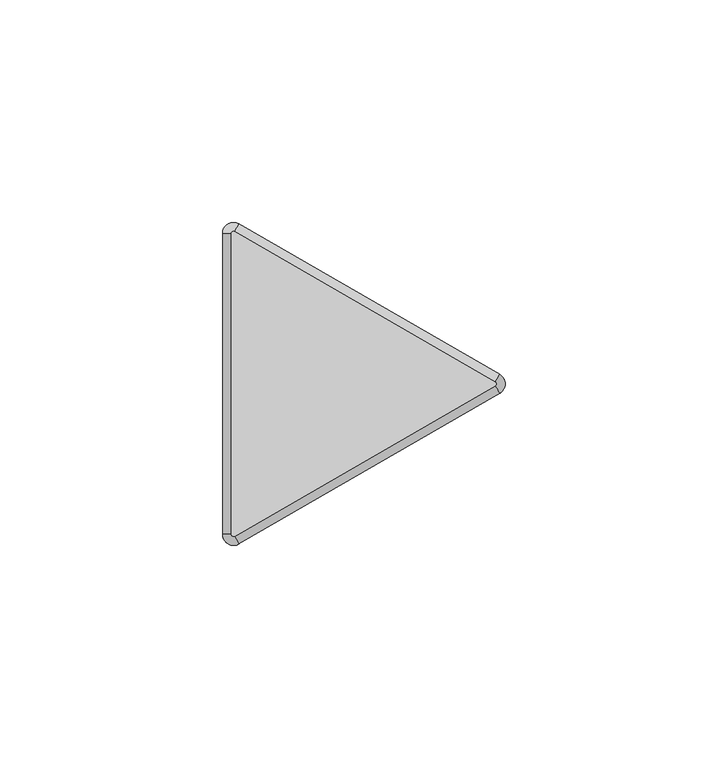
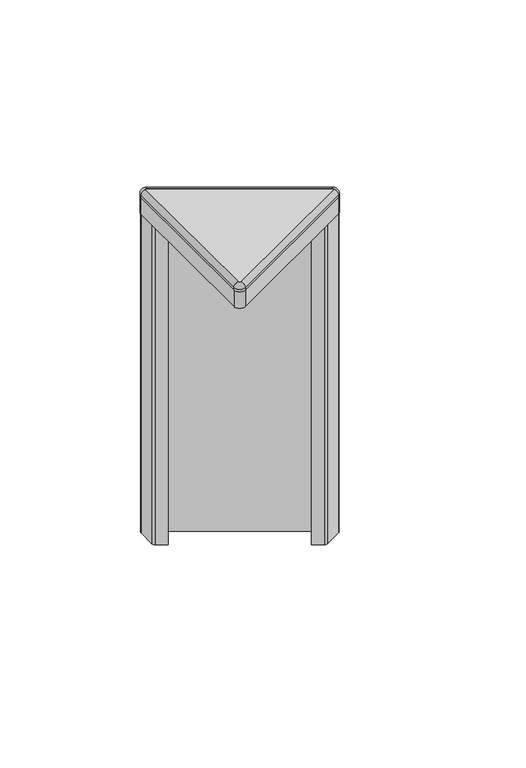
"""IFC4 building model written with IfcOpenShell, lengths in millimetres: furniture geometry, Steelcase - Answer Solution - Panel - 120deg Change-of-Height Trim - Thin : V Corner - 6H for 36H App."""

import ifcopenshell
import ifcopenshell.guid

model = None  # the IFC model being written
_history = None  # IfcOwnerHistory: only IFC2X3 demands one
_inside = {}  # id of a spatial element -> (the spatial element, [elements in it])
_under = {}  # id of a project, library or spatial element -> (it, [spatial elements below it])
_declared = {}  # id of a project -> (the project, [libraries it declares])
_typed = {}  # id of a type object -> (the type object, [elements of that type])
_made_of = {}  # id of a material, layer set ... -> (it, [elements and type objects made of it])


def new_model(schema):
    """Start an empty IFC model of exactly this schema.

    Asked for "IFC4X3", IfcOpenShell would pick the latest addendum, in which some entities
    have other attributes; the version numbers below select the first issue.
    IFC2X3 requires an IfcOwnerHistory on every rooted entity: one is made here for all.
    """
    global model, _history
    if schema == "IFC4X3":
        model = ifcopenshell.file(schema_version=(4, 3, 0, 0))
    else:
        model = ifcopenshell.file(schema=schema)
    _inside.clear()
    _under.clear()
    _declared.clear()
    _typed.clear()
    _made_of.clear()
    _history = None
    if model.schema == "IFC2X3":
        org = make("IfcOrganization", Name="unknown")
        user = make(
            "IfcPersonAndOrganization",
            ThePerson=make("IfcPerson", FamilyName="unknown"),
            TheOrganization=org,
        )
        app = make(
            "IfcApplication",
            ApplicationDeveloper=org,
            Version="unknown",
            ApplicationFullName="unknown",
            ApplicationIdentifier="unknown",
        )
        _history = make(
            "IfcOwnerHistory",
            OwningUser=user,
            OwningApplication=app,
            ChangeAction="ADDED",
            CreationDate=0,
        )
    return model


def make(cls, **values):
    """One entity of the class cls with the attributes given. An attribute that is None is left unset."""
    return model.create_entity(
        cls, **{name: value for name, value in values.items() if value is not None}
    )


def rooted(cls, **values):
    """An entity with a GlobalId (a new one), such as an element, a storey or a relation."""
    return make(cls, GlobalId=ifcopenshell.guid.new(), OwnerHistory=_history, **values)


def si_unit(unit_type, name, prefix=None):
    """IfcSIUnit, for example si_unit("LENGTHUNIT", "METRE", prefix="MILLI")."""
    return make("IfcSIUnit", UnitType=unit_type, Prefix=prefix, Name=name)


def assignment(units):
    """IfcUnitAssignment: the units of a project."""
    return None if units is None else make("IfcUnitAssignment", Units=units)


def point(xyz):
    """IfcCartesianPoint."""
    return None if xyz is None else make("IfcCartesianPoint", Coordinates=xyz)


def direction(xyz):
    """IfcDirection."""
    return None if xyz is None else make("IfcDirection", DirectionRatios=xyz)


def frame(location, z_axis=None, x_axis=None):
    """IfcAxis2Placement3D, a coordinate frame: its origin and axes. An axis left out is left unset."""
    return make(
        "IfcAxis2Placement3D",
        Location=point(location),
        Axis=direction(z_axis),
        RefDirection=direction(x_axis),
    )


def frame_2d(location, x_axis=None):
    """IfcAxis2Placement2D, a coordinate frame in the plane: its origin and x axis."""
    return make(
        "IfcAxis2Placement2D", Location=point(location), RefDirection=direction(x_axis)
    )


def origin():
    """The frame at (0, 0, 0) with its axes left unset."""
    return frame((0.0, 0.0, 0.0))


def place(relative_to, where):
    """IfcLocalPlacement: puts the frame where relative to a parent placement (None: the world)."""
    return make(
        "IfcLocalPlacement", PlacementRelTo=relative_to, RelativePlacement=where
    )


def context(
    kind, dimensions, precision=None, world=None, true_north=None, identifier=None
):
    """IfcGeometricRepresentationContext, for example the 3D "Model" context."""
    return make(
        "IfcGeometricRepresentationContext",
        ContextIdentifier=identifier,
        ContextType=kind,
        CoordinateSpaceDimension=dimensions,
        Precision=precision,
        WorldCoordinateSystem=world,
        TrueNorth=true_north,
    )


def project(units=None, contexts=None):
    """IfcProject with its units and contexts."""
    return rooted(
        "IfcProject",
        Name="project",
        RepresentationContexts=contexts,
        UnitsInContext=assignment(units),
    )


def spatial(cls, under=None, at=None, **own):
    """A site, building, storey or space (cls), placed at a placement, below another one or the project."""
    s = rooted(cls, ObjectPlacement=at, **own)
    if under is not None:
        _under.setdefault(under.id(), (under, []))[1].append(s)
    return s


def polyline(points):
    """IfcPolyline through the points."""
    return make("IfcPolyline", Points=[point(p) for p in points])


def circle_curve(where, radius):
    """IfcCircle in the frame where."""
    return make("IfcCircle", Position=where, Radius=radius)


def ellipse_curve(where, semi_axis1, semi_axis2):
    """IfcEllipse in the frame where."""
    return make(
        "IfcEllipse", Position=where, SemiAxis1=semi_axis1, SemiAxis2=semi_axis2
    )


def trimmed(basis, trim1, trim2, sense, master):
    """IfcTrimmedCurve: the piece of a basis curve between two trims."""
    return make(
        "IfcTrimmedCurve",
        BasisCurve=basis,
        Trim1=trim1,
        Trim2=trim2,
        SenseAgreement=sense,
        MasterRepresentation=master,
    )


def segment(curve, same_sense, transition):
    """IfcCompositeCurveSegment."""
    return make(
        "IfcCompositeCurveSegment",
        Transition=transition,
        SameSense=same_sense,
        ParentCurve=curve,
    )


def composite_curve(segments, self_intersect=None):
    """IfcCompositeCurve: segments joined end to end."""
    return make("IfcCompositeCurve", Segments=segments, SelfIntersect=self_intersect)


def outline(outer, holes=None, kind="AREA"):
    """IfcArbitraryClosedProfileDef: a profile drawn as a closed curve; with holes, ...WithVoids."""
    if holes is None:
        return make("IfcArbitraryClosedProfileDef", ProfileType=kind, OuterCurve=outer)
    return make(
        "IfcArbitraryProfileDefWithVoids",
        ProfileType=kind,
        OuterCurve=outer,
        InnerCurves=holes,
    )


def extrude(swept, where, along, depth):
    """IfcExtrudedAreaSolid: the profile swept, set in the frame where, extruded along a direction by depth."""
    return make(
        "IfcExtrudedAreaSolid",
        SweptArea=swept,
        Position=where,
        ExtrudedDirection=direction(along),
        Depth=depth,
    )


def shape(context_of_items, identifier, shape_type, items):
    """IfcShapeRepresentation: the items that make up one representation, for example the "Body"."""
    return make(
        "IfcShapeRepresentation",
        ContextOfItems=context_of_items,
        RepresentationIdentifier=identifier,
        RepresentationType=shape_type,
        Items=items,
    )


def source(mapping_origin, context_of_items, identifier, shape_type, items):
    """IfcRepresentationMap: a shape defined once, which mapped items show again and again."""
    return make(
        "IfcRepresentationMap",
        MappingOrigin=mapping_origin,
        MappedRepresentation=shape(context_of_items, identifier, shape_type, items),
    )


def transform(
    local_origin,
    x_axis=None,
    y_axis=None,
    z_axis=None,
    scale=None,
    scale2=None,
    scale3=None,
    uniform=True,
):
    """IfcCartesianTransformationOperator3D, or its non-uniform kind. x_axis, y_axis, z_axis: its Axis1, 2, 3."""
    if uniform:
        return make(
            "IfcCartesianTransformationOperator3D",
            Axis1=direction(x_axis),
            Axis2=direction(y_axis),
            LocalOrigin=point(local_origin),
            Scale=scale,
            Axis3=direction(z_axis),
        )
    return make(
        "IfcCartesianTransformationOperator3DnonUniform",
        Axis1=direction(x_axis),
        Axis2=direction(y_axis),
        LocalOrigin=point(local_origin),
        Scale=scale,
        Axis3=direction(z_axis),
        Scale2=scale2,
        Scale3=scale3,
    )


def mapped(mapping_source, mapping_target):
    """IfcMappedItem: shows the shape of a source again, moved by a transform."""
    return make(
        "IfcMappedItem", MappingSource=mapping_source, MappingTarget=mapping_target
    )


def made_of(thing, what):
    """Note that an element or type object is made of a material, layer set ...; save() writes the relation."""
    if what is not None:
        _made_of.setdefault(what.id(), (what, []))[1].append(thing)
    return thing


def element(
    cls,
    number,
    at=None,
    inside=None,
    cuts=None,
    type_object=None,
    material=None,
    context=None,
    identifier="Body",
    shape_type=None,
    held_by="IfcProductDefinitionShape",
    body=None,
    shapes=None,
    **own,
):
    """One element of the class cls, such as IfcWall. Its Tag is "e" and its number.

    at: its placement. inside: the storey or other place that contains it. cuts: it is an
    opening in that element (IfcRelVoidsElement). A single representation is given by context,
    identifier, shape_type and body (its items); several are given by shapes. held_by: the class
    of the entity that holds the representations. save() writes the other relations.
    """
    e = rooted(cls, Tag="e%d" % number, ObjectPlacement=at, **own)
    if body is not None:
        shapes = [shape(context, identifier, shape_type, body)]
    if shapes is not None:
        e.Representation = make(held_by, Representations=shapes)
    if inside is not None:
        _inside.setdefault(inside.id(), (inside, []))[1].append(e)
    if cuts is not None:
        rooted(
            "IfcRelVoidsElement", RelatingBuildingElement=cuts, RelatedOpeningElement=e
        )
    if type_object is not None:
        _typed.setdefault(type_object.id(), (type_object, []))[1].append(e)
    return made_of(e, material)


def aggregate(whole, parts):
    """IfcRelAggregates: a whole, such as a stair, and the parts it consists of."""
    return rooted("IfcRelAggregates", RelatingObject=whole, RelatedObjects=parts)


def save(model, path):
    """Write the relations noted so far, then the file.

    IfcRelAggregates (storeys below a building ...), IfcRelContainedInSpatialStructure (elements
    in a storey), IfcRelDefinesByType, IfcRelAssociatesMaterial and IfcRelDeclares: one each for
    every whole, place, type object, material and project.
    """
    for whole, parts in _under.values():
        aggregate(whole, parts)
    for where, things in _inside.values():
        rooted(
            "IfcRelContainedInSpatialStructure",
            RelatedElements=things,
            RelatingStructure=where,
        )
    for kind, things in _typed.values():
        rooted("IfcRelDefinesByType", RelatedObjects=things, RelatingType=kind)
    for what, things in _made_of.values():
        rooted("IfcRelAssociatesMaterial", RelatedObjects=things, RelatingMaterial=what)
    for by, libraries in _declared.values():
        rooted("IfcRelDeclares", RelatingContext=by, RelatedDefinitions=libraries)
    model.write(path)


def plane_surface(at):
    """IfcPlane: the flat surface through the origin of the frame at, square to its z axis."""
    return make("IfcPlane", Position=at)


def cylinder_surface(at, radius):
    """IfcCylindricalSurface: all points at the distance radius from the z axis of the frame at."""
    return make("IfcCylindricalSurface", Position=at, Radius=radius)


def revolved_surface(curve, axis_point, axis_direction):
    """IfcSurfaceOfRevolution: the curve turned about the line through axis_point along axis_direction."""
    return make(
        "IfcSurfaceOfRevolution",
        SweptCurve=make("IfcArbitraryOpenProfileDef", ProfileType="CURVE", Curve=curve),
        AxisPosition=make("IfcAxis1Placement", Location=point(axis_point), Axis=direction(axis_direction)),
    )


def advanced_brep(points, edges, surfaces, faces):
    """IfcAdvancedBrep: a solid bounded by faces that lie on surfaces and meet in shared edges.

    An edge is (start, end): straight between two places in points (the first is 0);
    or (start, end, curve); or (start, end, curve, False) where it runs against its curve.
    A face is (place in surfaces, loops), or (place, loops, False) where it looks against
    its surface's normal. A loop lists edges by number (the first is 1), with a minus sign
    where the edge is run from its end to its start. The first loop is the outer one.
    """
    corners = [point(p) for p in points]
    vertices = [make("IfcVertexPoint", VertexGeometry=c) for c in corners]
    made = []
    for start, end, *more in edges:
        made.append(
            make(
                "IfcEdgeCurve",
                EdgeStart=vertices[start],
                EdgeEnd=vertices[end],
                EdgeGeometry=more[0] if more else make("IfcPolyline", Points=[corners[start], corners[end]]),
                SameSense=more[1] if len(more) > 1 else True,
            )
        )
    hull = []
    for where, loops, *sense in faces:
        bounds = []
        for j, loop in enumerate(loops):
            ring = [make("IfcOrientedEdge", EdgeElement=made[abs(k) - 1], Orientation=k > 0) for k in loop]
            bounds.append(
                make(
                    "IfcFaceOuterBound" if j == 0 else "IfcFaceBound",
                    Bound=make("IfcEdgeLoop", EdgeList=ring),
                    Orientation=True,
                )
            )
        hull.append(make("IfcAdvancedFace", Bounds=bounds, FaceSurface=surfaces[where], SameSense=sense[0] if sense else True))
    return make("IfcAdvancedBrep", Outer=make("IfcClosedShell", CfsFaces=hull))


def furniture_dc80be19(model_context):
    return source(origin(), model_context, "Body", "SolidModel", [
        advanced_brep(
        [(-10.518645, -37.3335529, 918.8628978), (-14.2052101, -35.2051135, 918.8628978), (-14.2052101, -35.2051135, 917.9164663), (-10.518645, -37.3335529, 917.9164663), (-11.46175, -35.7000471, 920.75), (-12.319, -35.2051135, 920.75), (-11.46175, -35.7000471, 917.9164663), (-12.319, -35.2051135, 917.9164663), (48.0429908, -3.5229767, 917.9164663), (48.0429908, -3.5229767, 918.8628978), (47.0998858, -1.8894709, 920.75), (47.0998858, -1.8894709, 917.9164663), (48.0429908, 0.733902, 918.8628978), (48.0429908, 0.733902, 917.9164663), (47.0998858, -0.8996038, 920.75), (47.0998858, -0.8996038, 917.9164663), (-10.518645, 34.5444782, 917.9164663), (-14.2052101, 32.4160388, 917.9164663), (-11.46175, 32.9109723, 917.9164663), (-12.319, 32.4160388, 917.9164663), (-10.518645, 34.5444782, 918.8628978), (-11.46175, 32.9109723, 920.75), (-14.2052101, 32.4160388, 918.8628978), (-12.319, 32.4160388, 920.75)],
        [
            (0, 1, circle_curve(frame((-11.7475, -35.2051135, 918.8628978), z_axis=(0.0, 0.0, -1.0), x_axis=(-1.0, 0.0, 0.0)), 2.4577101)),
            (1, 2),
            (2, 3, circle_curve(frame((-11.7475, -35.2051135, 917.9164663), z_axis=(0.0, 0.0, 1.0), x_axis=(-1.0, 0.0, 0.0)), 2.4577101)),
            (3, 0),
            (4, 5, circle_curve(frame((-11.7475, -35.2051135, 920.75), z_axis=(0.0, 0.0, -1.0), x_axis=(-1.0, 0.0, 0.0)), 0.5715)),
            (5, 1, circle_curve(frame((-12.3181076, -35.2051135, 918.8628978), z_axis=(0.0, -1.0, 0.0), x_axis=(1.0, 0.0, 0.0)), 1.8871024)),
            (0, 4, circle_curve(frame((-11.4621962, -35.6992743, 918.8628978), z_axis=(-0.8660254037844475, -0.49999999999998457, 0.0), x_axis=(-0.49999999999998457, 0.8660254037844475, 0.0)), 1.8871024)),
            (6, 7, circle_curve(frame((-11.7475, -35.2051135, 917.9164663), z_axis=(0.0, 0.0, -1.0), x_axis=(-1.0, 0.0, 0.0)), 0.5715)),
            (7, 5),
            (4, 6),
            (3, 8),
            (8, 9),
            (9, 0),
            (9, 10, circle_curve(frame((47.0994396, -1.8886981, 918.8628978), z_axis=(-0.8660254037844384, -0.5000000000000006, 0.0), x_axis=(-0.5000000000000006, 0.8660254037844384, 0.0)), 1.8871024)),
            (10, 4),
            (10, 11),
            (11, 6),
            (12, 9, circle_curve(frame((46.8141358, -1.3945374, 918.8628978), z_axis=(0.0, 0.0, -1.0), x_axis=(0.4999999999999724, -0.8660254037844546, 0.0)), 2.4577101)),
            (8, 13, circle_curve(frame((46.8141358, -1.3945374, 917.9164663), z_axis=(0.0, 0.0, 1.0), x_axis=(0.4999999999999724, -0.8660254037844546, 0.0)), 2.4577101)),
            (13, 12),
            (14, 10, circle_curve(frame((46.8141358, -1.3945374, 920.75), z_axis=(0.0, 0.0, -1.0), x_axis=(0.4999999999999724, -0.8660254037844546, 0.0)), 0.5715)),
            (12, 14, circle_curve(frame((47.0994396, -0.9003766, 918.8628978), z_axis=(0.8660254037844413, -0.4999999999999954, 0.0), x_axis=(-0.4999999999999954, -0.8660254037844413, 0.0)), 1.8871024)),
            (15, 11, circle_curve(frame((46.8141358, -1.3945374, 917.9164663), z_axis=(0.0, 0.0, -1.0), x_axis=(0.4999999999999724, -0.8660254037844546, 0.0)), 0.5715)),
            (14, 15),
            (16, 13),
            (2, 17),
            (17, 16, circle_curve(frame((-11.7475, 32.4160388, 917.9164663), z_axis=(0.0, 0.0, -1.0), x_axis=(0.500000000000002, 0.8660254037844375, 0.0)), 2.4577101)),
            (15, 18),
            (18, 19, circle_curve(frame((-11.7475, 32.4160388, 917.9164663), z_axis=(0.0, 0.0, 1.0), x_axis=(0.500000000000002, 0.8660254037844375, 0.0)), 0.5715)),
            (19, 7),
            (16, 20),
            (20, 12),
            (20, 21, circle_curve(frame((-11.4621962, 32.9101995, 918.8628978), z_axis=(0.8660254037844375, -0.5000000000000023, 0.0), x_axis=(-0.5000000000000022, -0.8660254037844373, 0.0)), 1.8871024)),
            (21, 14),
            (21, 18),
            (22, 20, circle_curve(frame((-11.7475, 32.4160388, 918.8628978), z_axis=(0.0, 0.0, -1.0), x_axis=(0.500000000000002, 0.8660254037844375, 0.0)), 2.4577101)),
            (17, 22),
            (23, 21, circle_curve(frame((-11.7475, 32.4160388, 920.75), z_axis=(0.0, 0.0, -1.0), x_axis=(0.500000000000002, 0.8660254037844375, 0.0)), 0.5715)),
            (22, 23, circle_curve(frame((-12.3181076, 32.4160388, 918.8628978), z_axis=(0.0, 1.0, 0.0), x_axis=(1.0, 0.0, 0.0)), 1.8871024)),
            (23, 19),
            (1, 22),
            (5, 23),
        ],
        [
            cylinder_surface(frame((-11.7475, -35.2051135, 0.0), z_axis=(0.0, 0.0, 1.0), x_axis=(-1.0, 0.0, 0.0)), 2.4577101),
            revolved_surface(trimmed(ellipse_curve(frame((-12.3181076, -35.2051135, 918.8628978), z_axis=(0.0, 1.0, 0.0), x_axis=(1.0, 0.0, 0.0)), 1.8871024, 1.8871024), [point((-14.2052101, -35.2051135, 918.8628978))], [point((-12.319, -35.2051135, 920.75))], True, "CARTESIAN"), (-11.7475, -35.2051135, 0.0), (0.0, 0.0, 1.0)),
            revolved_surface(polyline([(-12.319, -35.2051135, 920.75), (-12.319, -35.2051135, 917.9164663)]), (-11.7475, -35.2051135, 0.0), (0.0, 0.0, 1.0)),
            plane_surface(frame((-10.518645, -37.3335529, 917.9164663), z_axis=(0.500000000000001, -0.8660254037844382, 0.0), x_axis=(0.8660254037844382, 0.500000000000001, 0.0))),
            cylinder_surface(frame((-11.4621962, -35.6992743, 918.8628978), z_axis=(-0.8660254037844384, -0.5000000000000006, 0.0), x_axis=(-0.5000000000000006, 0.8660254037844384, 0.0)), 1.8871024),
            plane_surface(frame((-11.46175, -35.7000471, 920.75), z_axis=(-0.500000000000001, 0.8660254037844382, 0.0), x_axis=(0.8660254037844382, 0.500000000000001, 0.0))),
            cylinder_surface(frame((46.8141358, -1.3945374, 0.0), z_axis=(0.0, 0.0, 1.0), x_axis=(0.4999999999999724, -0.8660254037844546, 0.0)), 2.4577101),
            revolved_surface(trimmed(ellipse_curve(frame((47.0994396, -1.8886981, 918.8628978), z_axis=(-0.8660254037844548, -0.499999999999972, 0.0), x_axis=(-0.499999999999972, 0.8660254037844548, 0.0)), 1.8871024, 1.8871024), [point((48.0429908, -3.5229767, 918.8628978))], [point((47.0998858, -1.8894709, 920.75))], True, "CARTESIAN"), (46.8141358, -1.3945374, 0.0), (0.0, 0.0, 1.0)),
            revolved_surface(polyline([(47.09988579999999, -1.8894709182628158, 920.75), (47.09988579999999, -1.8894709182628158, 917.9164663)]), (46.8141358, -1.3945374, 0.0), (0.0, 0.0, 1.0)),
            plane_surface(frame((47.0998858, -0.8996038, 917.9164663), z_axis=(0.0, 0.0, -1.0000000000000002), x_axis=(-0.8660254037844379, 0.5000000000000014, 0.0))),
            plane_surface(frame((48.0429908, 0.733902, 917.9164663), z_axis=(0.5000000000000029, 0.866025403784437, 0.0), x_axis=(-0.866025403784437, 0.5000000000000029, 0.0))),
            cylinder_surface(frame((47.0994396, -0.9003766, 918.8628978), z_axis=(0.8660254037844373, -0.5000000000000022, 0.0), x_axis=(-0.5000000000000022, -0.8660254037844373, 0.0)), 1.8871024),
            plane_surface(frame((47.0998858, -0.8996038, 920.75), z_axis=(-0.5000000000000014, -0.8660254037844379, 0.0), x_axis=(-0.8660254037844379, 0.5000000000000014, 0.0))),
            cylinder_surface(frame((-11.7475, 32.4160388, 0.0), z_axis=(0.0, 0.0, 1.0), x_axis=(0.500000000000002, 0.8660254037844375, 0.0)), 2.4577101),
            revolved_surface(trimmed(ellipse_curve(frame((-11.4621962, 32.9101995, 918.8628978), z_axis=(0.866025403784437, -0.5000000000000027, 0.0), x_axis=(-0.5000000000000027, -0.866025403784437, 0.0)), 1.8871024, 1.8871024), [point((-10.518645, 34.5444782, 918.8628978))], [point((-11.46175, 32.9109723, 920.75))], True, "CARTESIAN"), (-11.7475, 32.4160388, 0.0), (0.0, 0.0, 1.0)),
            revolved_surface(polyline([(-11.461749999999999, 32.91097231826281, 920.75), (-11.461749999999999, 32.91097231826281, 917.9164663)]), (-11.7475, 32.4160388, 0.0), (0.0, 0.0, 1.0)),
            plane_surface(frame((-14.2052101, 32.4160388, 917.9164663), z_axis=(-1.0, 0.0, 0.0), x_axis=(0.0, -1.0, 0.0))),
            cylinder_surface(frame((-12.3181076, 32.4160388, 918.8628978), z_axis=(0.0, 1.0, 0.0), x_axis=(1.0, 0.0, 0.0)), 1.8871024),
            plane_surface(frame((-12.319, 32.4160388, 920.75), z_axis=(1.0, 0.0, 0.0), x_axis=(0.0, -1.0, 0.0))),
        ],
        [
            (0, [[1, 2, 3, 4]]),
            (1, [[5, 6, -1, 7]]),
            (2, [[8, 9, -5, 10]]),
            (3, [[-4, 11, 12, 13]]),
            (4, [[-7, -13, 14, 15]]),
            (5, [[-10, -15, 16, 17]]),
            (6, [[18, -12, 19, 20]]),
            (7, [[21, -14, -18, 22]]),
            (8, [[23, -16, -21, 24]]),
            (9, [[25, -19, -11, -3, 26, 27], [-8, -17, -23, 28, 29, 30]]),
            (10, [[-20, -25, 31, 32]]),
            (11, [[-22, -32, 33, 34]]),
            (12, [[-24, -34, 35, -28]]),
            (13, [[36, -31, -27, 37]]),
            (14, [[38, -33, -36, 39]]),
            (15, [[-29, -35, -38, 40]]),
            (16, [[-37, -26, -2, 41]]),
            (17, [[-39, -41, -6, 42]]),
            (18, [[-40, -42, -9, -30]]),
        ],
    ),
        extrude(outline(composite_curve([segment(trimmed(circle_curve(frame_2d((46.8261011, -1.3945374)), 0.5655173), [point((47.1088598, -0.904785))], [point((47.1088598, -1.8842897))], False, "CARTESIAN"), True, "CONTINUOUS"), segment(polyline([(47.1088598, -1.8842897), (-11.4505119, -35.6935587)]), True, "CONTINUOUS"), segment(trimmed(circle_curve(frame_2d((-11.7400079, -35.1921369)), 0.5789921), [point((-11.4505119, -35.6935587))], [point((-12.319, -35.1921369))], False, "CARTESIAN"), True, "CONTINUOUS"), segment(polyline([(-12.319, -35.1921369), (-12.319, 32.3985888)]), True, "CONTINUOUS"), segment(trimmed(circle_curve(frame_2d((-11.7374252, 32.3985888)), 0.5815748), [point((-12.319, 32.3985888))], [point((-11.4466378, 32.9022473))], False, "CARTESIAN"), True, "CONTINUOUS"), segment(polyline([(-11.4466378, 32.9022473), (47.1088598, -0.904785)]), True, "CONTINUOUS")], self_intersect=False)), frame((0.0, 0.0, 917.9164663), z_axis=(0.0, 0.0, 1.0), x_axis=(1.0, 0.0, 0.0)), (0.0, 0.0, 1.0), 2.8335337),
        extrude(outline(composite_curve([segment(trimmed(circle_curve(frame_2d((47.9608454, -1.3945374)), 1.2935425), [point((48.6076166, -0.2742967))], [point((48.6076166, -2.514778))], False, "CARTESIAN"), True, "CONTINUOUS"), segment(polyline([(48.6076166, -2.514778), (41.722656, -6.4898119)]), True, "CONTINUOUS"), segment(trimmed(circle_curve(frame_2d((41.0991304, -5.4098338)), 1.2470513), [point((41.722656, -6.4898119))], [point((40.4756048, -6.4898119))], False, "CARTESIAN"), True, "CONTINUOUS"), segment(polyline([(40.4756048, -6.4898119), (36.3239304, -4.0928416), (36.7811304, -3.300948), (41.0991304, -5.7939464), (47.3502407, -2.1848662)]), True, "CONTINUOUS"), segment(trimmed(circle_curve(frame_2d((46.8939441, -1.3945374)), 0.9125932), [point((47.3502407, -2.1848662))], [point((47.3502407, -0.6042085))], True, "CARTESIAN"), True, "CONTINUOUS"), segment(polyline([(47.3502407, -0.6042085), (-11.3312768, 33.2755814)]), True, "CONTINUOUS"), segment(trimmed(circle_curve(frame_2d((-11.7875179, 32.4853487)), 0.9124821), [point((-11.3312768, 33.2755814))], [point((-12.7, 32.4853487))], True, "CARTESIAN"), True, "CONTINUOUS"), segment(polyline([(-12.7, 32.4853487), (-12.7, 25.266996), (-8.382, 22.7739975), (-8.8392, 21.9821039), (-12.9583282, 24.3602837)]), True, "CONTINUOUS"), segment(trimmed(circle_curve(frame_2d((-12.3022565, 25.4966333)), 1.3121435), [point((-12.9583282, 24.3602837))], [point((-13.6144, 25.4966333))], False, "CARTESIAN"), True, "CONTINUOUS"), segment(polyline([(-13.6144, 25.4966333), (-13.6144, 33.3957138)]), True, "CONTINUOUS"), segment(trimmed(circle_curve(frame_2d((-12.3131174, 33.3957138)), 1.3012826), [point((-13.6144, 33.3957138))], [point((-11.6624761, 34.5226576))], False, "CARTESIAN"), True, "CONTINUOUS"), segment(polyline([(-11.6624761, 34.5226576), (48.6076166, -0.2742967)]), True, "CONTINUOUS")], self_intersect=False)), frame((0.0, 0.0, 768.35), z_axis=(0.0, 0.0, 1.0), x_axis=(1.0, 0.0, 0.0)), (0.0, 0.0, 1.0), 142.24),
        extrude(outline(composite_curve([segment(trimmed(circle_curve(frame_2d((46.8140443, -1.3945374)), 2.4577558), [point((48.0429222, 0.7339416))], [point((48.0429222, -3.5230163))], False, "CARTESIAN"), True, "CONTINUOUS"), segment(polyline([(48.0429222, -3.5230163), (-10.518058, -37.333214)]), True, "CONTINUOUS"), segment(trimmed(circle_curve(frame_2d((-11.7471087, -35.2044357)), 2.4581014), [point((-10.518058, -37.333214))], [point((-14.2052101, -35.2044357))], False, "CARTESIAN"), True, "CONTINUOUS"), segment(polyline([(-14.2052101, -35.2044357), (-14.2052101, 32.4160388)]), True, "CONTINUOUS"), segment(trimmed(circle_curve(frame_2d((-11.7475, 32.4160388)), 2.4577101), [point((-14.2052101, 32.4160388))], [point((-10.518645, 34.5444782))], False, "CARTESIAN"), True, "CONTINUOUS"), segment(polyline([(-10.518645, 34.5444782), (48.0429222, 0.7339416)]), True, "CONTINUOUS")], self_intersect=False)), frame((0.0, 0.0, 910.59), z_axis=(0.0, 0.0, 1.0), x_axis=(1.0, 0.0, 0.0)), (0.0, 0.0, 1.0), 7.3264663),
    ])


if __name__ == "__main__":
    model = new_model("IFC4")
    model_context = context("Model", 3, world=origin())
    ifc_project = project(units=[si_unit("LENGTHUNIT", "METRE", prefix="MILLI")], contexts=[model_context])
    site = spatial("IfcSite", under=ifc_project)
    building = spatial("IfcBuilding", under=site)
    placement = place(None, origin())
    furniture_shape = furniture_dc80be19(model_context)
    element("IfcFurniture", 1, ObjectType="Steelcase - Answer Solution - Panel - 120deg Change-of-Height Trim - Thin : V Corner - 6H for 36H App", at=placement, inside=building, context=model_context, shape_type="MappedRepresentation", body=[
        mapped(furniture_shape, transform((0.0, 0.0, 0.0), x_axis=(1.0, 0.0, 0.0), y_axis=(0.0, 1.0, 0.0), z_axis=(0.0, 0.0, 1.0))),
    ])
    save(model, "model.ifc")
